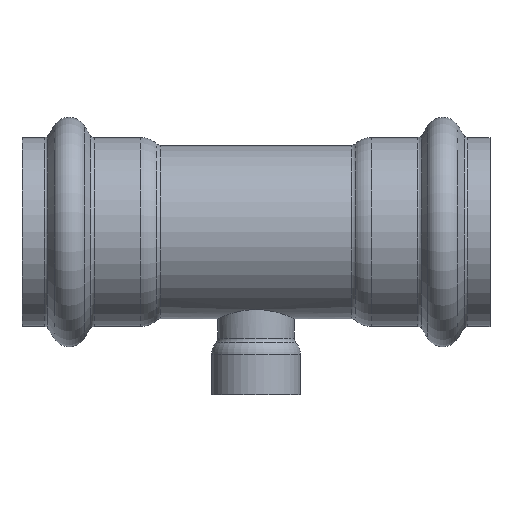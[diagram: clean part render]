
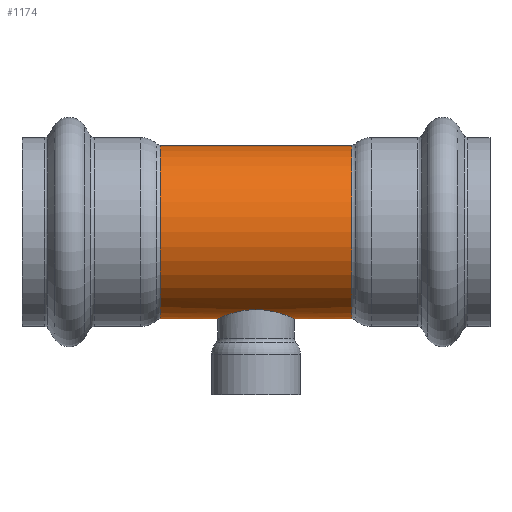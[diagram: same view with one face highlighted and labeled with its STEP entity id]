
A CAD part, top view. The second image highlights one B-rep face of the part: STEP entity #1174.
In plain terms, the highlighted cylindrical face has radius 30.163 mm (diameter 60.325 mm), a full revolution.
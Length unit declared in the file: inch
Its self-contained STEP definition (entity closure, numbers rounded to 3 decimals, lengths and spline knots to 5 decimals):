
#112=FACE_OUTER_BOUND('',#163,.T.);
#163=EDGE_LOOP('',(#924,#925,#926,#927,#928,#929,#930,#931,#932,#933,#934,
#935,#936,#937));
#270=CIRCLE('',#1329,1.1875);
#271=CIRCLE('',#1330,1.1875);
#272=CIRCLE('',#1331,1.1875);
#273=CIRCLE('',#1333,1.1875);
#274=CIRCLE('',#1334,1.1875);
#275=CIRCLE('',#1335,1.1875);
#350=LINE('',#2200,#374);
#351=LINE('',#2201,#375);
#374=VECTOR('',#1686,1.1875);
#375=VECTOR('',#1687,1.1875);
#384=B_SPLINE_CURVE_WITH_KNOTS('',3,(#1886,#1887,#1888,#1889,#1890,#1891,
#1892,#1893,#1894,#1895,#1896,#1897,#1898,#1899),.UNSPECIFIED.,.F.,.F.,
(4,2,2,2,2,2,4),(0.,0.25524,0.51049,1.02097,
1.53066,1.7855,2.04035),.UNSPECIFIED.);
#385=B_SPLINE_CURVE_WITH_KNOTS('',3,(#1901,#1902,#1903,#1904,#1905,#1906,
#1907,#1908,#1909,#1910,#1911,#1912,#1913,#1914),.UNSPECIFIED.,.F.,.F.,
(4,2,2,2,2,2,4),(6.12104,6.37589,6.63073,7.14042,
7.6509,7.90615,8.16139),.UNSPECIFIED.);
#386=B_SPLINE_CURVE_WITH_KNOTS('',3,(#1916,#1917,#1918,#1919,#1920,#1921,
#1922,#1923,#1924,#1925,#1926,#1927,#1928,#1929),.UNSPECIFIED.,.F.,.F.,
(4,2,2,2,2,2,4),(4.0807,4.33594,4.59118,5.10167,
5.61136,5.8662,6.12104),.UNSPECIFIED.);
#387=B_SPLINE_CURVE_WITH_KNOTS('',3,(#1935,#1936,#1937,#1938,#1939,#1940,
#1941,#1942,#1943,#1944,#1945,#1946,#1947,#1948),.UNSPECIFIED.,.F.,.F.,
(4,2,2,2,2,2,4),(2.04035,2.29519,2.55003,3.05972,
3.57021,3.82545,4.0807),.UNSPECIFIED.);
#392=VERTEX_POINT('',#1884);
#393=VERTEX_POINT('',#1885);
#394=VERTEX_POINT('',#1900);
#395=VERTEX_POINT('',#1915);
#472=VERTEX_POINT('',#2187);
#473=VERTEX_POINT('',#2189);
#474=VERTEX_POINT('',#2191);
#475=VERTEX_POINT('',#2195);
#476=VERTEX_POINT('',#2196);
#477=VERTEX_POINT('',#2198);
#528=EDGE_CURVE('',#392,#393,#384,.T.);
#529=EDGE_CURVE('',#394,#392,#385,.T.);
#530=EDGE_CURVE('',#395,#394,#386,.T.);
#534=EDGE_CURVE('',#393,#395,#387,.T.);
#636=EDGE_CURVE('',#473,#472,#270,.T.);
#637=EDGE_CURVE('',#474,#473,#271,.T.);
#638=EDGE_CURVE('',#472,#474,#272,.T.);
#639=EDGE_CURVE('',#475,#476,#273,.T.);
#640=EDGE_CURVE('',#477,#475,#274,.T.);
#641=EDGE_CURVE('',#477,#393,#350,.T.);
#642=EDGE_CURVE('',#394,#474,#351,.T.);
#643=EDGE_CURVE('',#476,#477,#275,.T.);
#924=ORIENTED_EDGE('',*,*,#639,.F.);
#925=ORIENTED_EDGE('',*,*,#640,.F.);
#926=ORIENTED_EDGE('',*,*,#641,.T.);
#927=ORIENTED_EDGE('',*,*,#534,.T.);
#928=ORIENTED_EDGE('',*,*,#530,.T.);
#929=ORIENTED_EDGE('',*,*,#642,.T.);
#930=ORIENTED_EDGE('',*,*,#637,.T.);
#931=ORIENTED_EDGE('',*,*,#636,.T.);
#932=ORIENTED_EDGE('',*,*,#638,.T.);
#933=ORIENTED_EDGE('',*,*,#642,.F.);
#934=ORIENTED_EDGE('',*,*,#529,.T.);
#935=ORIENTED_EDGE('',*,*,#528,.T.);
#936=ORIENTED_EDGE('',*,*,#641,.F.);
#937=ORIENTED_EDGE('',*,*,#643,.F.);
#1089=CYLINDRICAL_SURFACE('',#1332,1.1875);
#1174=ADVANCED_FACE('',(#112),#1089,.T.);
#1329=AXIS2_PLACEMENT_3D('',#2190,#1674,#1675);
#1330=AXIS2_PLACEMENT_3D('',#2192,#1676,#1677);
#1331=AXIS2_PLACEMENT_3D('',#2193,#1678,#1679);
#1332=AXIS2_PLACEMENT_3D('',#2194,#1680,#1681);
#1333=AXIS2_PLACEMENT_3D('',#2197,#1682,#1683);
#1334=AXIS2_PLACEMENT_3D('',#2199,#1684,#1685);
#1335=AXIS2_PLACEMENT_3D('',#2202,#1688,#1689);
#1674=DIRECTION('center_axis',(1.,0.,0.));
#1675=DIRECTION('ref_axis',(0.,1.,0.));
#1676=DIRECTION('center_axis',(1.,0.,0.));
#1677=DIRECTION('ref_axis',(0.,1.,0.));
#1678=DIRECTION('center_axis',(1.,0.,0.));
#1679=DIRECTION('ref_axis',(0.,1.,0.));
#1680=DIRECTION('center_axis',(1.,0.,0.));
#1681=DIRECTION('ref_axis',(0.,1.,0.));
#1682=DIRECTION('center_axis',(1.,0.,0.));
#1683=DIRECTION('ref_axis',(0.,1.,0.));
#1684=DIRECTION('center_axis',(1.,0.,0.));
#1685=DIRECTION('ref_axis',(0.,1.,0.));
#1686=DIRECTION('',(-1.,0.,0.));
#1687=DIRECTION('',(-1.,0.,0.));
#1688=DIRECTION('center_axis',(1.,0.,0.));
#1689=DIRECTION('ref_axis',(0.,1.,0.));
#1884=CARTESIAN_POINT('',(0.,-1.06514,0.525));
#1885=CARTESIAN_POINT('',(0.525,-1.1875,0.));
#1886=CARTESIAN_POINT('Ctrl Pts',(0.,-1.06514,
0.525));
#1887=CARTESIAN_POINT('Ctrl Pts',(0.0335,-1.06514,
0.525));
#1888=CARTESIAN_POINT('Ctrl Pts',(0.06796,-1.06677,0.52174));
#1889=CARTESIAN_POINT('Ctrl Pts',(0.13618,-1.07328,0.50822));
#1890=CARTESIAN_POINT('Ctrl Pts',(0.16994,-1.07815,0.49796));
#1891=CARTESIAN_POINT('Ctrl Pts',(0.26669,-1.09619,0.45759));
#1892=CARTESIAN_POINT('Ctrl Pts',(0.32509,-1.1128,0.41737));
#1893=CARTESIAN_POINT('Ctrl Pts',(0.4173,-1.14314,0.32517));
#1894=CARTESIAN_POINT('Ctrl Pts',(0.45757,-1.15901,0.26673));
#1895=CARTESIAN_POINT('Ctrl Pts',(0.49798,-1.17574,0.1699));
#1896=CARTESIAN_POINT('Ctrl Pts',(0.50824,-1.18017,0.13612));
#1897=CARTESIAN_POINT('Ctrl Pts',(0.52175,-1.18605,0.06789));
#1898=CARTESIAN_POINT('Ctrl Pts',(0.525,-1.1875,0.03344));
#1899=CARTESIAN_POINT('Ctrl Pts',(0.525,-1.1875,0.));
#1900=CARTESIAN_POINT('',(-0.525,-1.1875,0.));
#1901=CARTESIAN_POINT('Ctrl Pts',(-0.525,-1.1875,0.));
#1902=CARTESIAN_POINT('Ctrl Pts',(-0.525,-1.1875,0.03344));
#1903=CARTESIAN_POINT('Ctrl Pts',(-0.52175,-1.18605,
0.06789));
#1904=CARTESIAN_POINT('Ctrl Pts',(-0.50824,-1.18017,
0.13612));
#1905=CARTESIAN_POINT('Ctrl Pts',(-0.49798,-1.17574,
0.1699));
#1906=CARTESIAN_POINT('Ctrl Pts',(-0.45757,-1.15901,
0.26673));
#1907=CARTESIAN_POINT('Ctrl Pts',(-0.4173,-1.14314,
0.32517));
#1908=CARTESIAN_POINT('Ctrl Pts',(-0.32509,-1.1128,
0.41737));
#1909=CARTESIAN_POINT('Ctrl Pts',(-0.26669,-1.09619,
0.45759));
#1910=CARTESIAN_POINT('Ctrl Pts',(-0.16994,-1.07815,
0.49796));
#1911=CARTESIAN_POINT('Ctrl Pts',(-0.13618,-1.07328,
0.50822));
#1912=CARTESIAN_POINT('Ctrl Pts',(-0.06796,-1.06677,
0.52174));
#1913=CARTESIAN_POINT('Ctrl Pts',(-0.0335,-1.06514,
0.525));
#1914=CARTESIAN_POINT('Ctrl Pts',(0.,-1.06514,
0.525));
#1915=CARTESIAN_POINT('',(0.,-1.06514,-0.525));
#1916=CARTESIAN_POINT('Ctrl Pts',(0.,-1.06514,
-0.525));
#1917=CARTESIAN_POINT('Ctrl Pts',(-0.0335,-1.06514,
-0.525));
#1918=CARTESIAN_POINT('Ctrl Pts',(-0.06796,-1.06677,
-0.52174));
#1919=CARTESIAN_POINT('Ctrl Pts',(-0.13618,-1.07328,
-0.50822));
#1920=CARTESIAN_POINT('Ctrl Pts',(-0.16994,-1.07815,
-0.49796));
#1921=CARTESIAN_POINT('Ctrl Pts',(-0.26669,-1.09619,
-0.45759));
#1922=CARTESIAN_POINT('Ctrl Pts',(-0.32509,-1.1128,
-0.41737));
#1923=CARTESIAN_POINT('Ctrl Pts',(-0.4173,-1.14314,
-0.32517));
#1924=CARTESIAN_POINT('Ctrl Pts',(-0.45757,-1.15901,
-0.26673));
#1925=CARTESIAN_POINT('Ctrl Pts',(-0.49798,-1.17574,
-0.1699));
#1926=CARTESIAN_POINT('Ctrl Pts',(-0.50824,-1.18017,
-0.13612));
#1927=CARTESIAN_POINT('Ctrl Pts',(-0.52175,-1.18605,
-0.06789));
#1928=CARTESIAN_POINT('Ctrl Pts',(-0.525,-1.1875,-0.03344));
#1929=CARTESIAN_POINT('Ctrl Pts',(-0.525,-1.1875,0.));
#1935=CARTESIAN_POINT('Ctrl Pts',(0.525,-1.1875,0.));
#1936=CARTESIAN_POINT('Ctrl Pts',(0.525,-1.1875,-0.03344));
#1937=CARTESIAN_POINT('Ctrl Pts',(0.52175,-1.18605,-0.06789));
#1938=CARTESIAN_POINT('Ctrl Pts',(0.50824,-1.18017,-0.13612));
#1939=CARTESIAN_POINT('Ctrl Pts',(0.49798,-1.17574,-0.1699));
#1940=CARTESIAN_POINT('Ctrl Pts',(0.45757,-1.15901,-0.26673));
#1941=CARTESIAN_POINT('Ctrl Pts',(0.4173,-1.14314,-0.32517));
#1942=CARTESIAN_POINT('Ctrl Pts',(0.32509,-1.1128,-0.41737));
#1943=CARTESIAN_POINT('Ctrl Pts',(0.26669,-1.09619,-0.45759));
#1944=CARTESIAN_POINT('Ctrl Pts',(0.16994,-1.07815,-0.49796));
#1945=CARTESIAN_POINT('Ctrl Pts',(0.13618,-1.07328,-0.50822));
#1946=CARTESIAN_POINT('Ctrl Pts',(0.06796,-1.06677,-0.52174));
#1947=CARTESIAN_POINT('Ctrl Pts',(0.0335,-1.06514,
-0.525));
#1948=CARTESIAN_POINT('Ctrl Pts',(0.,-1.06514,
-0.525));
#2187=CARTESIAN_POINT('',(-1.31135,0.,1.1875));
#2189=CARTESIAN_POINT('',(-1.31135,1.1875,0.));
#2190=CARTESIAN_POINT('Origin',(-1.31135,0.,0.));
#2191=CARTESIAN_POINT('',(-1.31135,-1.1875,0.));
#2192=CARTESIAN_POINT('Origin',(-1.31135,0.,0.));
#2193=CARTESIAN_POINT('Origin',(-1.31135,0.,0.));
#2194=CARTESIAN_POINT('Origin',(0.65568,0.,0.));
#2195=CARTESIAN_POINT('',(1.31135,1.1875,0.));
#2196=CARTESIAN_POINT('',(1.31135,0.,1.1875));
#2197=CARTESIAN_POINT('Origin',(1.31135,0.,0.));
#2198=CARTESIAN_POINT('',(1.31135,-1.1875,0.));
#2199=CARTESIAN_POINT('Origin',(1.31135,0.,0.));
#2200=CARTESIAN_POINT('',(0.65568,-1.1875,0.));
#2201=CARTESIAN_POINT('',(0.65568,-1.1875,0.));
#2202=CARTESIAN_POINT('Origin',(1.31135,0.,0.));
